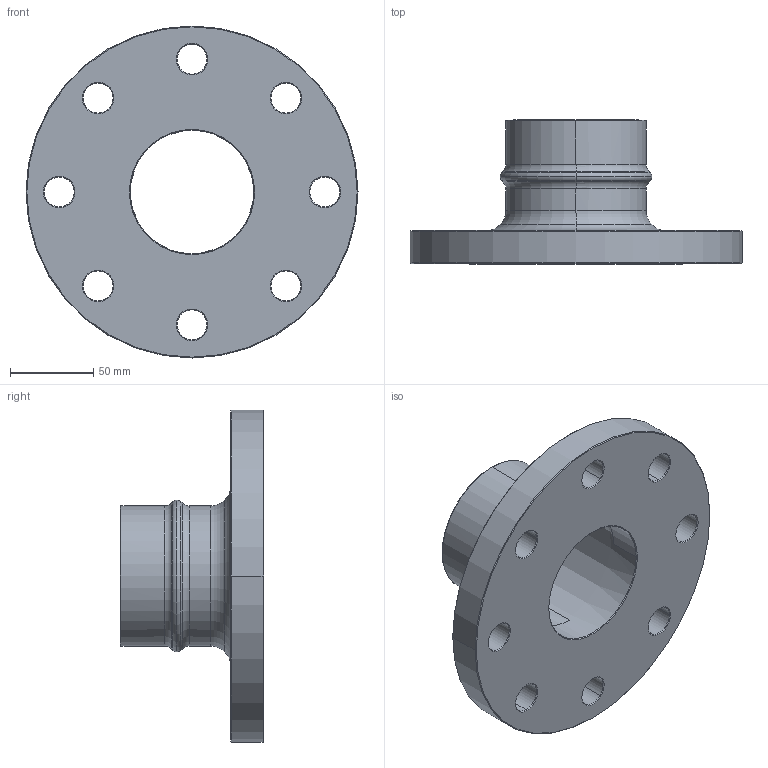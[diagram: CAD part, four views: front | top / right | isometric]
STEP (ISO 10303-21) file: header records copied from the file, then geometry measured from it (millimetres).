
FILE_DESCRIPTION((''),'2;1');
FILE_NAME('AU15717000','2019-12-13T',('Administrator'),(''),'PRO/ENGINEER BY PARAMETRIC TECHNOLOGY CORPORATION, 2009360','PRO/ENGINEER BY PARAMETRIC TECHNOLOGY CORPORATION, 2009360','');
FILE_SCHEMA(('AUTOMOTIVE_DESIGN_CC2 { 1 2 10303 214 -1 1 5 2 }'));
Length unit declared in the file: millimetre
Products named in the file (1): AU15717000
Bounding box: 200 x 86.58 x 200 mm (x, y, z)
Volume: 587501.2 mm3; surface area: 108301.7 mm2
Topology: 1 solids, 1 shells, 85 faces, 198 edges, 116 vertices
Faces by surface type: cone 44, cylinder 22, torus 16, plane 3
Entity records: 3099 total; most frequent: DIRECTION 498, CARTESIAN_POINT 399, ORIENTED_EDGE 396, AXIS2_PLACEMENT_3D 215, PRESENTATION_STYLE_ASSIGNMENT 199, STYLED_ITEM 199, CURVE_STYLE 198, EDGE_CURVE 198
